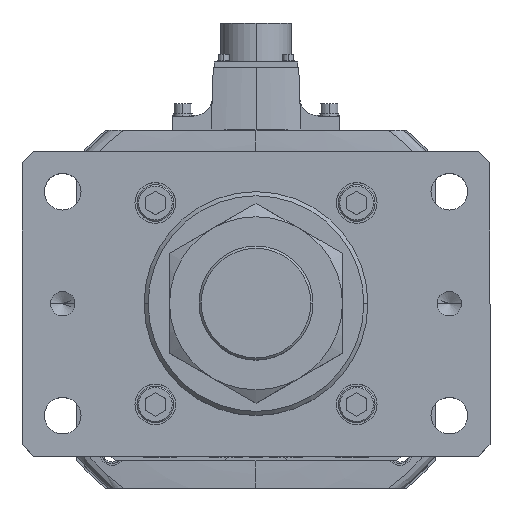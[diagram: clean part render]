
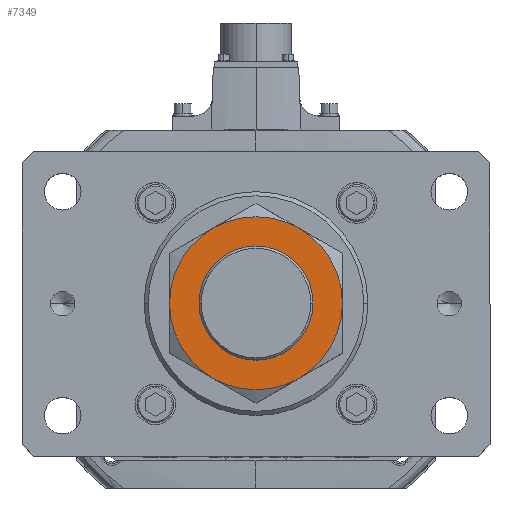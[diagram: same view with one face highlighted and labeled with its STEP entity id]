
A CAD part, top view. The second image highlights one B-rep face of the part: STEP entity #7349.
In plain terms, the highlighted planar face has unit normal (0, 0, 1).
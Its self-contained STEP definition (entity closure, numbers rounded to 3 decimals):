
#12 = DIRECTION ( 'NONE',  ( 0., 0., -1. ) ) ;
#106 = DIRECTION ( 'NONE',  ( 0., 0., -1. ) ) ;
#300 = DIRECTION ( 'NONE',  ( -1., 0., 0. ) ) ;
#973 = DIRECTION ( 'NONE',  ( 0., 0., 1. ) ) ;
#1112 = VERTEX_POINT ( 'NONE', #46696 ) ;
#1230 = EDGE_CURVE ( 'NONE', #27191, #8965, #12289, .T. ) ;
#3904 = ORIENTED_EDGE ( 'NONE', *, *, #37244, .F. ) ;
#4111 = DIRECTION ( 'NONE',  ( 1., 0., 0. ) ) ;
#4394 = CARTESIAN_POINT ( 'NONE',  ( 21.25, -36.806, 34. ) ) ;
#4724 = CARTESIAN_POINT ( 'NONE',  ( -21.25, 36.806, 34. ) ) ;
#5564 = PLANE ( 'NONE',  #6305 ) ;
#5583 = CARTESIAN_POINT ( 'NONE',  ( 0., 0., 34. ) ) ;
#5737 = DIRECTION ( 'NONE',  ( 1., 0., 0. ) ) ;
#5812 = VERTEX_POINT ( 'NONE', #4724 ) ;
#5987 = DIRECTION ( 'NONE',  ( 1., 0., 0. ) ) ;
#6305 = AXIS2_PLACEMENT_3D ( 'NONE', #22838, #31245, #5737 ) ;
#6335 = DIRECTION ( 'NONE',  ( 0., 0., -1. ) ) ;
#6336 = CARTESIAN_POINT ( 'NONE',  ( 21.25, 36.806, 34. ) ) ;
#6637 = CARTESIAN_POINT ( 'NONE',  ( 0., 0., 34. ) ) ;
#7067 = EDGE_CURVE ( 'NONE', #26273, #43388, #21882, .T. ) ;
#7349 = ADVANCED_FACE ( 'NONE', ( #37855, #16544 ), #5564, .T. ) ;
#7617 = EDGE_LOOP ( 'NONE', ( #3904, #8664 ) ) ;
#8664 = ORIENTED_EDGE ( 'NONE', *, *, #47978, .F. ) ;
#8872 = EDGE_CURVE ( 'NONE', #5812, #25953, #16382, .T. ) ;
#8878 = CIRCLE ( 'NONE', #41309, 42.5 ) ;
#8965 = VERTEX_POINT ( 'NONE', #4394 ) ;
#8966 = EDGE_CURVE ( 'NONE', #43388, #5812, #48922, .T. ) ;
#10403 = CARTESIAN_POINT ( 'NONE',  ( -42.5, 0., 34. ) ) ;
#10589 = DIRECTION ( 'NONE',  ( 1., 0., 0. ) ) ;
#11655 = DIRECTION ( 'NONE',  ( 0., 0., -1. ) ) ;
#12289 = CIRCLE ( 'NONE', #13919, 42.5 ) ;
#12395 = ORIENTED_EDGE ( 'NONE', *, *, #7067, .F. ) ;
#13274 = ORIENTED_EDGE ( 'NONE', *, *, #25089, .F. ) ;
#13919 = AXIS2_PLACEMENT_3D ( 'NONE', #6637, #44597, #19097 ) ;
#14598 = ORIENTED_EDGE ( 'NONE', *, *, #8872, .F. ) ;
#15303 = CARTESIAN_POINT ( 'NONE',  ( 28., 0., 34. ) ) ;
#16170 = CARTESIAN_POINT ( 'NONE',  ( 0., 0., 34. ) ) ;
#16382 = CIRCLE ( 'NONE', #28801, 42.5 ) ;
#16544 = FACE_BOUND ( 'NONE', #7617, .T. ) ;
#16860 = CIRCLE ( 'NONE', #44661, 28. ) ;
#19097 = DIRECTION ( 'NONE',  ( 1., 0., 0. ) ) ;
#19296 = CARTESIAN_POINT ( 'NONE',  ( 0., 0., 34. ) ) ;
#20408 = EDGE_LOOP ( 'NONE', ( #51495, #53651, #14598, #39301, #12395, #13274 ) ) ;
#20627 = CARTESIAN_POINT ( 'NONE',  ( -21.25, -36.806, 34. ) ) ;
#21465 = CARTESIAN_POINT ( 'NONE',  ( 0., 0., 34. ) ) ;
#21882 = CIRCLE ( 'NONE', #47317, 42.5 ) ;
#21950 = DIRECTION ( 'NONE',  ( 0., 0., 1. ) ) ;
#22838 = CARTESIAN_POINT ( 'NONE',  ( 0., 0., 34. ) ) ;
#23612 = CARTESIAN_POINT ( 'NONE',  ( 0., 0., 34. ) ) ;
#23621 = CARTESIAN_POINT ( 'NONE',  ( 42.5, 0., 34. ) ) ;
#25089 = EDGE_CURVE ( 'NONE', #8965, #26273, #36287, .T. ) ;
#25953 = VERTEX_POINT ( 'NONE', #6336 ) ;
#26273 = VERTEX_POINT ( 'NONE', #20627 ) ;
#27191 = VERTEX_POINT ( 'NONE', #23621 ) ;
#28801 = AXIS2_PLACEMENT_3D ( 'NONE', #37135, #11655, #41392 ) ;
#31245 = DIRECTION ( 'NONE',  ( 0., 0., 1. ) ) ;
#31558 = AXIS2_PLACEMENT_3D ( 'NONE', #23612, #6335, #5987 ) ;
#32720 = DIRECTION ( 'NONE',  ( 0., 0., -1. ) ) ;
#36287 = CIRCLE ( 'NONE', #31558, 42.5 ) ;
#37135 = CARTESIAN_POINT ( 'NONE',  ( 0., 0., 34. ) ) ;
#37244 = EDGE_CURVE ( 'NONE', #1112, #50305, #40121, .T. ) ;
#37855 = FACE_OUTER_BOUND ( 'NONE', #20408, .T. ) ;
#38805 = EDGE_CURVE ( 'NONE', #25953, #27191, #8878, .T. ) ;
#39301 = ORIENTED_EDGE ( 'NONE', *, *, #8966, .F. ) ;
#39438 = CARTESIAN_POINT ( 'NONE',  ( 0., 0., 34. ) ) ;
#40121 = CIRCLE ( 'NONE', #49038, 28. ) ;
#41257 = AXIS2_PLACEMENT_3D ( 'NONE', #21465, #106, #300 ) ;
#41309 = AXIS2_PLACEMENT_3D ( 'NONE', #19296, #32720, #10589 ) ;
#41392 = DIRECTION ( 'NONE',  ( 1., 0., 0. ) ) ;
#43388 = VERTEX_POINT ( 'NONE', #10403 ) ;
#44597 = DIRECTION ( 'NONE',  ( 0., 0., -1. ) ) ;
#44661 = AXIS2_PLACEMENT_3D ( 'NONE', #39438, #973, #51750 ) ;
#46696 = CARTESIAN_POINT ( 'NONE',  ( -28., 0., 34. ) ) ;
#47261 = DIRECTION ( 'NONE',  ( 1., 0., 0. ) ) ;
#47317 = AXIS2_PLACEMENT_3D ( 'NONE', #16170, #12, #4111 ) ;
#47978 = EDGE_CURVE ( 'NONE', #50305, #1112, #16860, .T. ) ;
#48922 = CIRCLE ( 'NONE', #41257, 42.5 ) ;
#49038 = AXIS2_PLACEMENT_3D ( 'NONE', #5583, #21950, #47261 ) ;
#50305 = VERTEX_POINT ( 'NONE', #15303 ) ;
#51495 = ORIENTED_EDGE ( 'NONE', *, *, #1230, .F. ) ;
#51750 = DIRECTION ( 'NONE',  ( 1., 0., 0. ) ) ;
#53651 = ORIENTED_EDGE ( 'NONE', *, *, #38805, .F. ) ;
